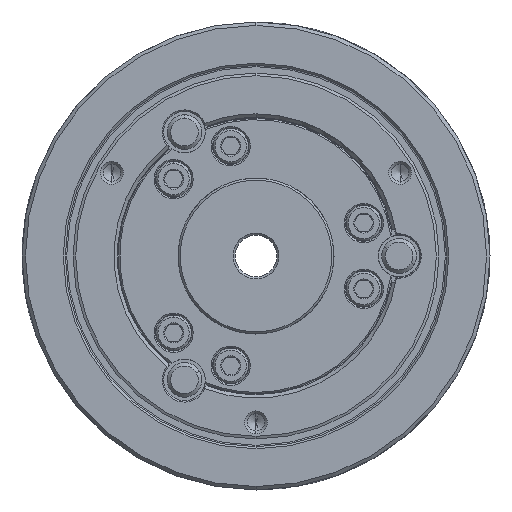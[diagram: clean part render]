
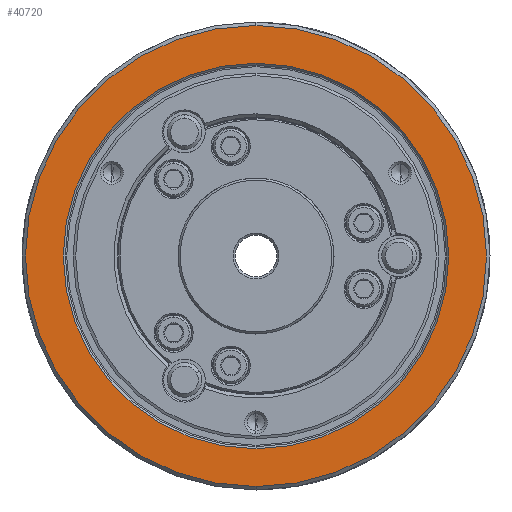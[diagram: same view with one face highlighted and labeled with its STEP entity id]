
A CAD part, left-side view. The second image highlights one B-rep face of the part: STEP entity #40720.
In plain terms, the highlighted planar face has unit normal (-1, 0, 0).
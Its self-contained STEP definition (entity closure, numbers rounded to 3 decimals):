
#1832 = DIRECTION ( 'NONE',  ( 0., 0., -1. ) ) ;
#2864 = CIRCLE ( 'NONE', #79553, 55.6 ) ;
#2883 = VERTEX_POINT ( 'NONE', #64747 ) ;
#10609 = DIRECTION ( 'NONE',  ( 0., 0., -1. ) ) ;
#11054 = CARTESIAN_POINT ( 'NONE',  ( -60., 0., 0. ) ) ;
#14421 = VERTEX_POINT ( 'NONE', #27459 ) ;
#15399 = CARTESIAN_POINT ( 'NONE',  ( -60., 0., 0. ) ) ;
#17473 = EDGE_CURVE ( 'NONE', #14421, #80430, #2864, .T. ) ;
#23295 = DIRECTION ( 'NONE',  ( 1., 0., 0. ) ) ;
#24510 = ORIENTED_EDGE ( 'NONE', *, *, #52328, .T. ) ;
#25190 = CIRCLE ( 'NONE', #48959, 66.5 ) ;
#26511 = FACE_OUTER_BOUND ( 'NONE', #44784, .T. ) ;
#27459 = CARTESIAN_POINT ( 'NONE',  ( -60., 0., -55.6 ) ) ;
#29508 = CARTESIAN_POINT ( 'NONE',  ( -60., 0., 0. ) ) ;
#32426 = AXIS2_PLACEMENT_3D ( 'NONE', #15399, #61686, #53850 ) ;
#33776 = DIRECTION ( 'NONE',  ( 1., 0., 0. ) ) ;
#38706 = AXIS2_PLACEMENT_3D ( 'NONE', #41169, #33776, #1832 ) ;
#40720 = ADVANCED_FACE ( 'NONE', ( #61022, #26511 ), #53180, .T. ) ;
#41169 = CARTESIAN_POINT ( 'NONE',  ( -60., 0., 0. ) ) ;
#42689 = EDGE_LOOP ( 'NONE', ( #24510, #83003 ) ) ;
#44784 = EDGE_LOOP ( 'NONE', ( #55549, #64020 ) ) ;
#47051 = DIRECTION ( 'NONE',  ( 0., 0., 1. ) ) ;
#48959 = AXIS2_PLACEMENT_3D ( 'NONE', #11054, #23295, #10609 ) ;
#52328 = EDGE_CURVE ( 'NONE', #80430, #14421, #76328, .T. ) ;
#53180 = PLANE ( 'NONE',  #84568 ) ;
#53850 = DIRECTION ( 'NONE',  ( 0., 0., -1. ) ) ;
#55549 = ORIENTED_EDGE ( 'NONE', *, *, #58193, .F. ) ;
#57087 = VERTEX_POINT ( 'NONE', #76571 ) ;
#58193 = EDGE_CURVE ( 'NONE', #57087, #2883, #25190, .T. ) ;
#61022 = FACE_BOUND ( 'NONE', #42689, .T. ) ;
#61686 = DIRECTION ( 'NONE',  ( 1., 0., 0. ) ) ;
#64020 = ORIENTED_EDGE ( 'NONE', *, *, #70822, .F. ) ;
#64747 = CARTESIAN_POINT ( 'NONE',  ( -60., 0., 66.5 ) ) ;
#67118 = CARTESIAN_POINT ( 'NONE',  ( -60., 55.6, 0. ) ) ;
#70822 = EDGE_CURVE ( 'NONE', #2883, #57087, #79798, .T. ) ;
#74938 = DIRECTION ( 'NONE',  ( 1., 0., 0. ) ) ;
#76328 = CIRCLE ( 'NONE', #38706, 55.6 ) ;
#76571 = CARTESIAN_POINT ( 'NONE',  ( -60., 0., -66.5 ) ) ;
#79553 = AXIS2_PLACEMENT_3D ( 'NONE', #29508, #74938, #82345 ) ;
#79791 = DIRECTION ( 'NONE',  ( -1., 0., 0. ) ) ;
#79798 = CIRCLE ( 'NONE', #32426, 66.5 ) ;
#80430 = VERTEX_POINT ( 'NONE', #81458 ) ;
#81458 = CARTESIAN_POINT ( 'NONE',  ( -60., 0., 55.6 ) ) ;
#82345 = DIRECTION ( 'NONE',  ( 0., 0., -1. ) ) ;
#83003 = ORIENTED_EDGE ( 'NONE', *, *, #17473, .T. ) ;
#84568 = AXIS2_PLACEMENT_3D ( 'NONE', #67118, #79791, #47051 ) ;
